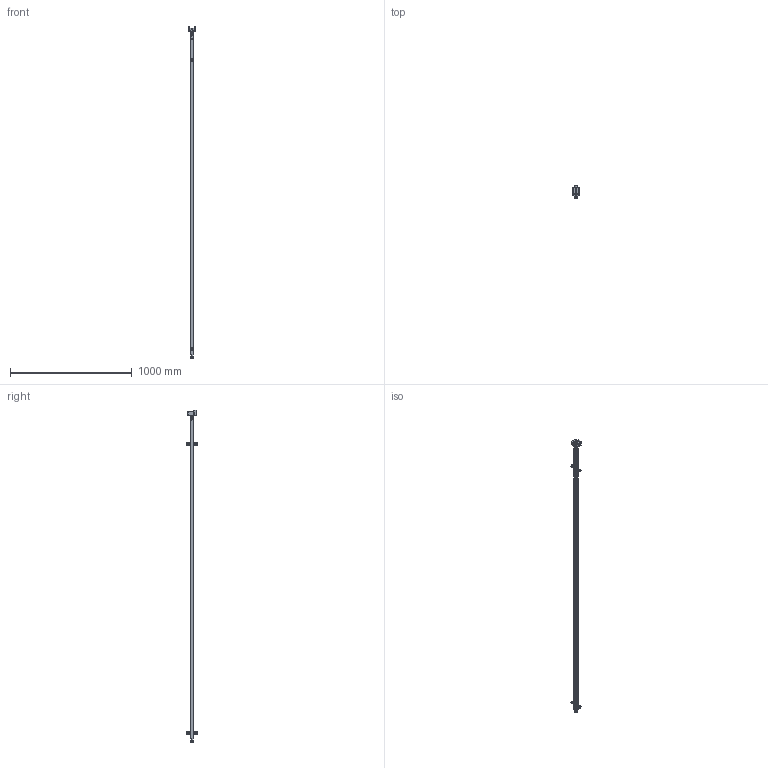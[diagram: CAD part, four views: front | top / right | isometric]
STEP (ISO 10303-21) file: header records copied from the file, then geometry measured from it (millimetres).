
FILE_DESCRIPTION (( 'STEP AP214' ), '1' );
FILE_NAME ('1001883.STEP', '2025-09-17T10:53:06', ( '' ), ( '' ), 'SwSTEP 2.0', 'SolidWorks 2025', '' );
FILE_SCHEMA (( 'AUTOMOTIVE_DESIGN' ));
Length unit declared in the file: millimetre
Products named in the file (1): 1001883
Bounding box: 54.9 x 97 x 2726.5 mm (x, y, z)
Volume: 1804512.8 mm3; surface area: 314855.3 mm2
Topology: 15 solids, 15 shells, 1908 faces, 5103 edges, 3342 vertices
Faces by surface type: plane 1518, cylinder 164, bspline 120, torus 62, cone 44
Entity records: 59983 total; most frequent: CARTESIAN_POINT 12583, ORIENTED_EDGE 10206, DIRECTION 8924, EDGE_CURVE 5103, VECTOR 4350, LINE 4350, VERTEX_POINT 3342, AXIS2_PLACEMENT_3D 2287
